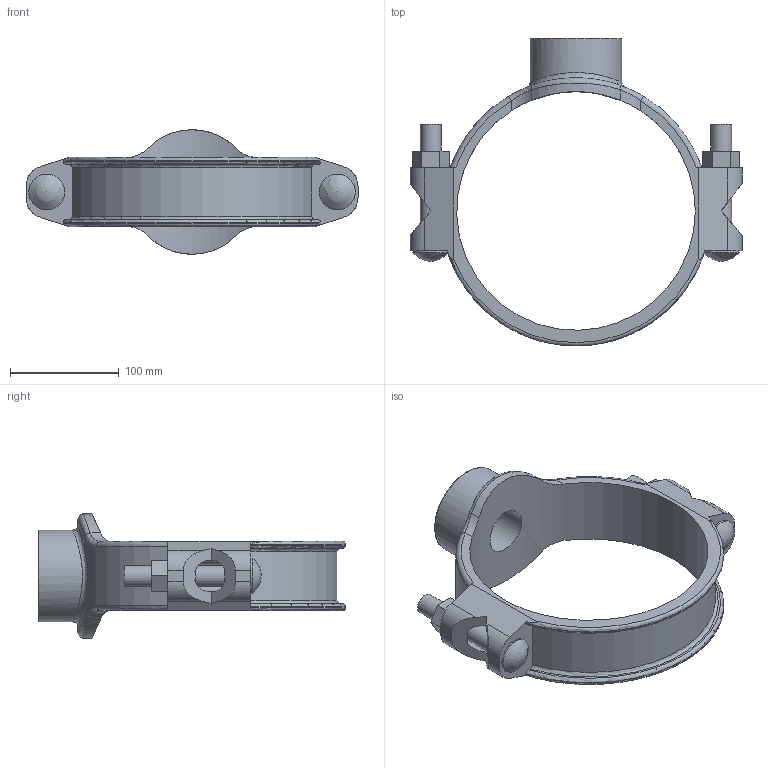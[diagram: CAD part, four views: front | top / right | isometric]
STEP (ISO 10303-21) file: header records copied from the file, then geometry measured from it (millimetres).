
FILE_DESCRIPTION(/* description */ ('VIC SS MECHANICAL T BRANCH OUTLET STYLE 422 (BSPP)','CAx-IF Rec.Pracs.---Representation and Presentation of Product Manufacturing Information (PMI)---4.0---2014-10-13'),/* implementation_level */ '2;1');
FILE_NAME(/* name */ 'C:\Files for Export\422\STEP\Victaulic_SS-OGS_Mech-Tee Out_Style 422 (BSPP)\Victaulic_SS-OGS_Mech-Tee Out_Style 422 (BSPP)_08.0x01.5 (200x40).stp',/* time_stamp */ '2023-03-28T14:25:07+02:00',/* author */ ('jheald'),/* organization */ ('Victaulic'),/* preprocessor_version */ 'ST-DEVELOPER v18.1',/* originating_system */ 'Autodesk Inventor 2020',/* authorisation */ '');
FILE_SCHEMA (('AP242_MANAGED_MODEL_BASED_3D_ENGINEERING_MIM_LF { 1 0 10303 442 1 1 4 }'));
Length unit declared in the file: inch
Products named in the file (1): 422-08.0x01.5
Bounding box: 304.8 x 282.56 x 114.3 mm (x, y, z)
Volume: 883764.6 mm3; surface area: 173559.8 mm2
Topology: 1 solids, 1 shells, 100 faces, 290 edges, 192 vertices
Faces by surface type: plane 48, cylinder 32, torus 11, bspline 9
Full cylindrical faces by diameter (mm): 19.05 x4, 33.02 x2, 41.275 x1, 48.26 x1, 84.074 x1, 219.075 x1
Entity records: 4364 total; most frequent: CARTESIAN_POINT 1504, ORIENTED_EDGE 576, DIRECTION 558, EDGE_CURVE 288, AXIS2_PLACEMENT_3D 206, VERTEX_POINT 192, LINE 146, VECTOR 146
